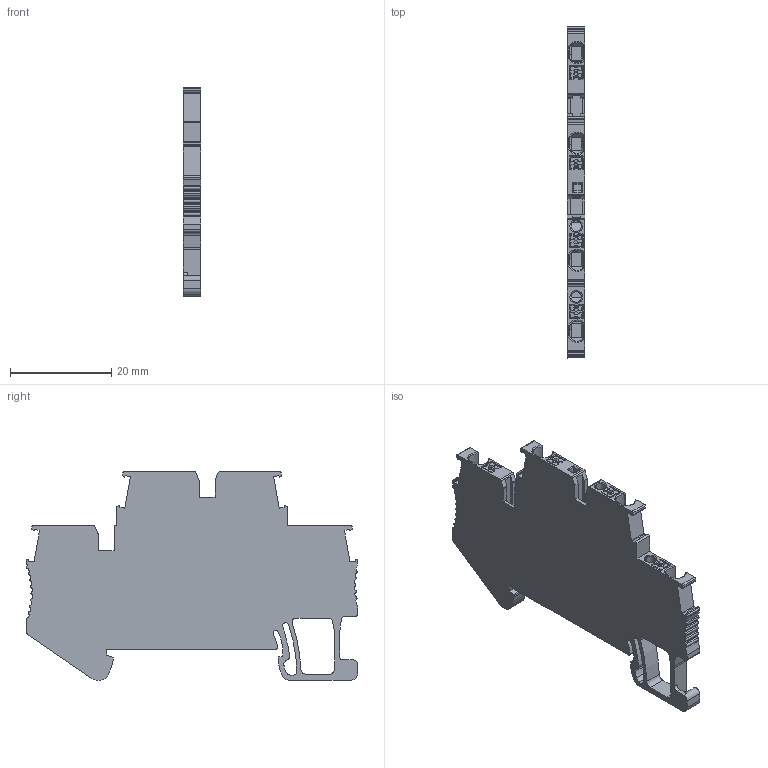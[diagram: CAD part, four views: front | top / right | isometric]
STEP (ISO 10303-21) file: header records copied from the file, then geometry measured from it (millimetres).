
FILE_DESCRIPTION((''),'2;1');
FILE_NAME('UPT-1_5-2_ASSY','2024-03-29T16:03:15',('Administrator'),(''),'CREO PARAMETRIC BY PTC INC, 2018050','CREO PARAMETRIC BY PTC INC, 2018050','');
FILE_SCHEMA(('CONFIG_CONTROL_DESIGN'));
Length unit declared in the file: millimetre
Products named in the file (1): UPT-1_5-2_ASSY
Bounding box: 3.5 x 65.4 x 41.1 mm (x, y, z)
Volume: 6009.1 mm3; surface area: 5756.2 mm2
Topology: 1 solids, 10 shells, 1334 faces, 3623 edges, 2269 vertices
Faces by surface type: plane 670, cylinder 460, torus 60, sphere 56, cone 48, bspline 20, extrusion 20
Entity records: 44207 total; most frequent: CARTESIAN_POINT 10713, ORIENTED_EDGE 7140, DIRECTION 6864, EDGE_CURVE 3570, VECTOR 2326, LINE 2306, AXIS2_PLACEMENT_3D 2269, VERTEX_POINT 2269
